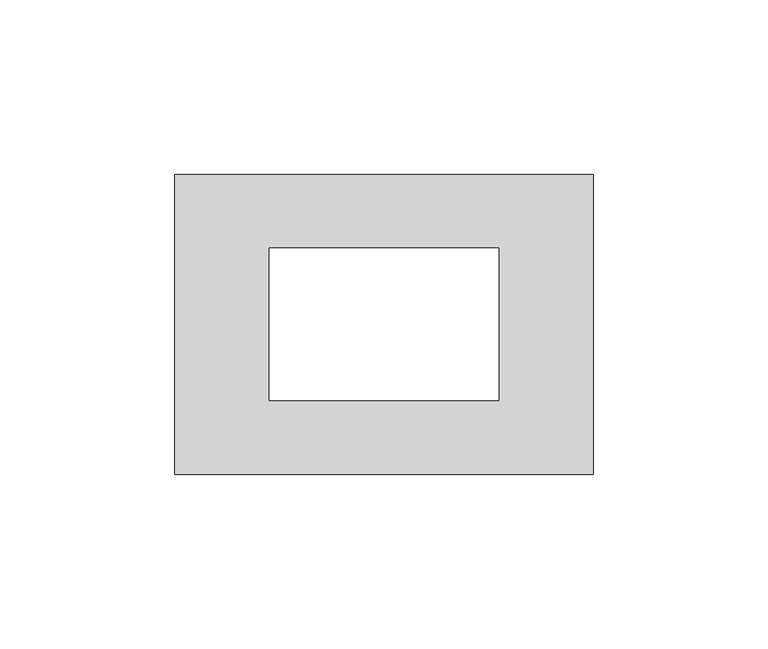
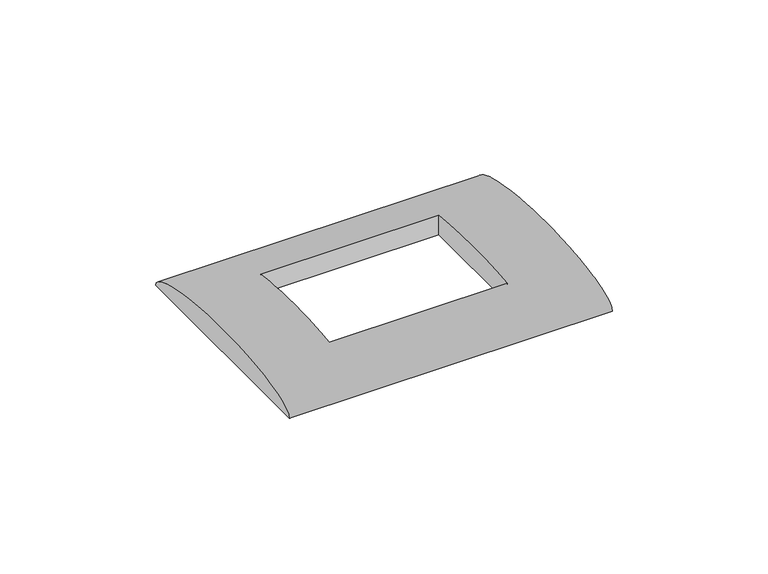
"""IFC4 building model written with IfcOpenShell, lengths in millimetres: proxy geometry, 00-Placca : Placca 3 moduli."""

import ifcopenshell
import ifcopenshell.guid

model = None  # the IFC model being written
_history = None  # IfcOwnerHistory: only IFC2X3 demands one
_inside = {}  # id of a spatial element -> (the spatial element, [elements in it])
_under = {}  # id of a project, library or spatial element -> (it, [spatial elements below it])
_declared = {}  # id of a project -> (the project, [libraries it declares])
_typed = {}  # id of a type object -> (the type object, [elements of that type])
_made_of = {}  # id of a material, layer set ... -> (it, [elements and type objects made of it])


def new_model(schema):
    """Start an empty IFC model of exactly this schema.

    Asked for "IFC4X3", IfcOpenShell would pick the latest addendum, in which some entities
    have other attributes; the version numbers below select the first issue.
    IFC2X3 requires an IfcOwnerHistory on every rooted entity: one is made here for all.
    """
    global model, _history
    if schema == "IFC4X3":
        model = ifcopenshell.file(schema_version=(4, 3, 0, 0))
    else:
        model = ifcopenshell.file(schema=schema)
    _inside.clear()
    _under.clear()
    _declared.clear()
    _typed.clear()
    _made_of.clear()
    _history = None
    if model.schema == "IFC2X3":
        org = make("IfcOrganization", Name="unknown")
        user = make(
            "IfcPersonAndOrganization",
            ThePerson=make("IfcPerson", FamilyName="unknown"),
            TheOrganization=org,
        )
        app = make(
            "IfcApplication",
            ApplicationDeveloper=org,
            Version="unknown",
            ApplicationFullName="unknown",
            ApplicationIdentifier="unknown",
        )
        _history = make(
            "IfcOwnerHistory",
            OwningUser=user,
            OwningApplication=app,
            ChangeAction="ADDED",
            CreationDate=0,
        )
    return model


def make(cls, **values):
    """One entity of the class cls with the attributes given. An attribute that is None is left unset."""
    return model.create_entity(
        cls, **{name: value for name, value in values.items() if value is not None}
    )


def rooted(cls, **values):
    """An entity with a GlobalId (a new one), such as an element, a storey or a relation."""
    return make(cls, GlobalId=ifcopenshell.guid.new(), OwnerHistory=_history, **values)


def si_unit(unit_type, name, prefix=None):
    """IfcSIUnit, for example si_unit("LENGTHUNIT", "METRE", prefix="MILLI")."""
    return make("IfcSIUnit", UnitType=unit_type, Prefix=prefix, Name=name)


def assignment(units):
    """IfcUnitAssignment: the units of a project."""
    return None if units is None else make("IfcUnitAssignment", Units=units)


def point(xyz):
    """IfcCartesianPoint."""
    return None if xyz is None else make("IfcCartesianPoint", Coordinates=xyz)


def direction(xyz):
    """IfcDirection."""
    return None if xyz is None else make("IfcDirection", DirectionRatios=xyz)


def frame(location, z_axis=None, x_axis=None):
    """IfcAxis2Placement3D, a coordinate frame: its origin and axes. An axis left out is left unset."""
    return make(
        "IfcAxis2Placement3D",
        Location=point(location),
        Axis=direction(z_axis),
        RefDirection=direction(x_axis),
    )


def origin():
    """The frame at (0, 0, 0) with its axes left unset."""
    return frame((0.0, 0.0, 0.0))


def place(relative_to, where):
    """IfcLocalPlacement: puts the frame where relative to a parent placement (None: the world)."""
    return make(
        "IfcLocalPlacement", PlacementRelTo=relative_to, RelativePlacement=where
    )


def context(
    kind, dimensions, precision=None, world=None, true_north=None, identifier=None
):
    """IfcGeometricRepresentationContext, for example the 3D "Model" context."""
    return make(
        "IfcGeometricRepresentationContext",
        ContextIdentifier=identifier,
        ContextType=kind,
        CoordinateSpaceDimension=dimensions,
        Precision=precision,
        WorldCoordinateSystem=world,
        TrueNorth=true_north,
    )


def project(units=None, contexts=None):
    """IfcProject with its units and contexts."""
    return rooted(
        "IfcProject",
        Name="project",
        RepresentationContexts=contexts,
        UnitsInContext=assignment(units),
    )


def spatial(cls, under=None, at=None, **own):
    """A site, building, storey or space (cls), placed at a placement, below another one or the project."""
    s = rooted(cls, ObjectPlacement=at, **own)
    if under is not None:
        _under.setdefault(under.id(), (under, []))[1].append(s)
    return s


def ellipse_curve(where, semi_axis1, semi_axis2):
    """IfcEllipse in the frame where."""
    return make(
        "IfcEllipse", Position=where, SemiAxis1=semi_axis1, SemiAxis2=semi_axis2
    )


def trimmed(basis, trim1, trim2, sense, master):
    """IfcTrimmedCurve: the piece of a basis curve between two trims."""
    return make(
        "IfcTrimmedCurve",
        BasisCurve=basis,
        Trim1=trim1,
        Trim2=trim2,
        SenseAgreement=sense,
        MasterRepresentation=master,
    )


def shape(context_of_items, identifier, shape_type, items):
    """IfcShapeRepresentation: the items that make up one representation, for example the "Body"."""
    return make(
        "IfcShapeRepresentation",
        ContextOfItems=context_of_items,
        RepresentationIdentifier=identifier,
        RepresentationType=shape_type,
        Items=items,
    )


def source(mapping_origin, context_of_items, identifier, shape_type, items):
    """IfcRepresentationMap: a shape defined once, which mapped items show again and again."""
    return make(
        "IfcRepresentationMap",
        MappingOrigin=mapping_origin,
        MappedRepresentation=shape(context_of_items, identifier, shape_type, items),
    )


def transform(
    local_origin,
    x_axis=None,
    y_axis=None,
    z_axis=None,
    scale=None,
    scale2=None,
    scale3=None,
    uniform=True,
):
    """IfcCartesianTransformationOperator3D, or its non-uniform kind. x_axis, y_axis, z_axis: its Axis1, 2, 3."""
    if uniform:
        return make(
            "IfcCartesianTransformationOperator3D",
            Axis1=direction(x_axis),
            Axis2=direction(y_axis),
            LocalOrigin=point(local_origin),
            Scale=scale,
            Axis3=direction(z_axis),
        )
    return make(
        "IfcCartesianTransformationOperator3DnonUniform",
        Axis1=direction(x_axis),
        Axis2=direction(y_axis),
        LocalOrigin=point(local_origin),
        Scale=scale,
        Axis3=direction(z_axis),
        Scale2=scale2,
        Scale3=scale3,
    )


def mapped(mapping_source, mapping_target):
    """IfcMappedItem: shows the shape of a source again, moved by a transform."""
    return make(
        "IfcMappedItem", MappingSource=mapping_source, MappingTarget=mapping_target
    )


def made_of(thing, what):
    """Note that an element or type object is made of a material, layer set ...; save() writes the relation."""
    if what is not None:
        _made_of.setdefault(what.id(), (what, []))[1].append(thing)
    return thing


def element(
    cls,
    number,
    at=None,
    inside=None,
    cuts=None,
    type_object=None,
    material=None,
    context=None,
    identifier="Body",
    shape_type=None,
    held_by="IfcProductDefinitionShape",
    body=None,
    shapes=None,
    **own,
):
    """One element of the class cls, such as IfcWall. Its Tag is "e" and its number.

    at: its placement. inside: the storey or other place that contains it. cuts: it is an
    opening in that element (IfcRelVoidsElement). A single representation is given by context,
    identifier, shape_type and body (its items); several are given by shapes. held_by: the class
    of the entity that holds the representations. save() writes the other relations.
    """
    e = rooted(cls, Tag="e%d" % number, ObjectPlacement=at, **own)
    if body is not None:
        shapes = [shape(context, identifier, shape_type, body)]
    if shapes is not None:
        e.Representation = make(held_by, Representations=shapes)
    if inside is not None:
        _inside.setdefault(inside.id(), (inside, []))[1].append(e)
    if cuts is not None:
        rooted(
            "IfcRelVoidsElement", RelatingBuildingElement=cuts, RelatedOpeningElement=e
        )
    if type_object is not None:
        _typed.setdefault(type_object.id(), (type_object, []))[1].append(e)
    return made_of(e, material)


def aggregate(whole, parts):
    """IfcRelAggregates: a whole, such as a stair, and the parts it consists of."""
    return rooted("IfcRelAggregates", RelatingObject=whole, RelatedObjects=parts)


def save(model, path):
    """Write the relations noted so far, then the file.

    IfcRelAggregates (storeys below a building ...), IfcRelContainedInSpatialStructure (elements
    in a storey), IfcRelDefinesByType, IfcRelAssociatesMaterial and IfcRelDeclares: one each for
    every whole, place, type object, material and project.
    """
    for whole, parts in _under.values():
        aggregate(whole, parts)
    for where, things in _inside.values():
        rooted(
            "IfcRelContainedInSpatialStructure",
            RelatedElements=things,
            RelatingStructure=where,
        )
    for kind, things in _typed.values():
        rooted("IfcRelDefinesByType", RelatedObjects=things, RelatingType=kind)
    for what, things in _made_of.values():
        rooted("IfcRelAssociatesMaterial", RelatedObjects=things, RelatingMaterial=what)
    for by, libraries in _declared.values():
        rooted("IfcRelDeclares", RelatingContext=by, RelatedDefinitions=libraries)
    model.write(path)


def plane_surface(at):
    """IfcPlane: the flat surface through the origin of the frame at, square to its z axis."""
    return make("IfcPlane", Position=at)


def extruded_surface(curve, direction_of_extrusion, depth):
    """IfcSurfaceOfLinearExtrusion: the curve pushed along a direction by depth."""
    return make(
        "IfcSurfaceOfLinearExtrusion",
        SweptCurve=make("IfcArbitraryOpenProfileDef", ProfileType="CURVE", Curve=curve),
        ExtrudedDirection=direction(direction_of_extrusion),
        Depth=depth,
    )


def advanced_brep(points, edges, surfaces, faces):
    """IfcAdvancedBrep: a solid bounded by faces that lie on surfaces and meet in shared edges.

    An edge is (start, end): straight between two places in points (the first is 0);
    or (start, end, curve); or (start, end, curve, False) where it runs against its curve.
    A face is (place in surfaces, loops), or (place, loops, False) where it looks against
    its surface's normal. A loop lists edges by number (the first is 1), with a minus sign
    where the edge is run from its end to its start. The first loop is the outer one.
    """
    corners = [point(p) for p in points]
    vertices = [make("IfcVertexPoint", VertexGeometry=c) for c in corners]
    made = []
    for start, end, *more in edges:
        made.append(
            make(
                "IfcEdgeCurve",
                EdgeStart=vertices[start],
                EdgeEnd=vertices[end],
                EdgeGeometry=more[0] if more else make("IfcPolyline", Points=[corners[start], corners[end]]),
                SameSense=more[1] if len(more) > 1 else True,
            )
        )
    hull = []
    for where, loops, *sense in faces:
        bounds = []
        for j, loop in enumerate(loops):
            ring = [make("IfcOrientedEdge", EdgeElement=made[abs(k) - 1], Orientation=k > 0) for k in loop]
            bounds.append(
                make(
                    "IfcFaceOuterBound" if j == 0 else "IfcFaceBound",
                    Bound=make("IfcEdgeLoop", EdgeList=ring),
                    Orientation=True,
                )
            )
        hull.append(make("IfcAdvancedFace", Bounds=bounds, FaceSurface=surfaces[where], SameSense=sense[0] if sense else True))
    return make("IfcAdvancedBrep", Outer=make("IfcClosedShell", CfsFaces=hull))


def electrical_fixtures_ccd0ece1(model_context):
    return source(origin(), model_context, "Body", "AdvancedBrep", [
        advanced_brep(
        [(60.0, -43.0, 2.0), (60.0, 43.0, 2.0), (-60.0, -43.0, 2.0), (-60.0, 43.0, 2.0), (33.0, -22.0, 2.0), (33.0, 22.0, 2.0), (-33.0, 22.0, 2.0), (-33.0, -22.0, 2.0), (33.0, -22.0, 9.7328641), (33.0, 22.0, 9.7328641), (-33.0, 22.0, 9.7328641), (-33.0, -22.0, 9.7328641)],
        [
            (0, 1),
            (1, 0, ellipse_curve(frame((60.0, 0.0, 2.0), z_axis=(1.0, 0.0, 0.0), x_axis=(0.0, 1.0, 0.0)), 43.0, 9.0)),
            (2, 3, ellipse_curve(frame((-60.0, 0.0, 2.0), z_axis=(-1.0, 0.0, 0.0), x_axis=(0.0, 1.0, 0.0)), 43.0, 9.0)),
            (3, 2),
            (0, 2),
            (3, 1),
            (4, 5),
            (5, 6),
            (6, 7),
            (7, 4),
            (4, 8),
            (8, 9, ellipse_curve(frame((33.0, 0.0, 2.0), z_axis=(-1.0, 0.0, 0.0), x_axis=(0.0, 1.0, 0.0)), 43.0, 9.0)),
            (9, 5),
            (9, 10),
            (10, 6),
            (10, 11, ellipse_curve(frame((-33.0, 0.0, 2.0), z_axis=(1.0, 0.0, 0.0), x_axis=(0.0, 1.0, 0.0)), 43.0, 9.0)),
            (11, 7),
            (11, 8),
        ],
        [
            plane_surface(frame((60.0, 43.0, 2.0), z_axis=(1.0, 0.0, 0.0), x_axis=(0.0, 1.0, 0.0))),
            plane_surface(frame((-60.0, 43.0, 2.0), z_axis=(-1.0, 0.0, 0.0), x_axis=(0.0, -1.0, 0.0))),
            plane_surface(frame((60.0, -43.0, 2.0), z_axis=(0.0, 0.0, -1.0), x_axis=(-1.0, 0.0, 0.0))),
            plane_surface(frame((33.0, -22.0, 13.0), z_axis=(-1.0, 0.0, 0.0), x_axis=(0.0, 0.0, -1.0))),
            plane_surface(frame((33.0, 22.0, 13.0), z_axis=(0.0, -1.0, 0.0), x_axis=(0.0, 0.0, -1.0))),
            plane_surface(frame((-33.0, 22.0, 13.0), z_axis=(1.0, 0.0, 0.0), x_axis=(0.0, 0.0, -1.0))),
            plane_surface(frame((-33.0, -22.0, 13.0), z_axis=(0.0, 1.0, 0.0), x_axis=(0.0, 0.0, -1.0))),
            extruded_surface(trimmed(ellipse_curve(frame((-180.0, 0.0, 2.0), z_axis=(1.0, 0.0, 0.0), x_axis=(0.0, 1.0, 0.0)), 43.0, 9.0), [point((-180.0, 43.0, 2.0))], [point((-180.0, -43.0, 2.0))], True, "CARTESIAN"), (120.0, 0.0, 0.0), 120.0),
        ],
        [
            (0, [[1, 2]]),
            (1, [[3, 4]]),
            (2, [[-1, 5, -4, 6], [7, 8, 9, 10]]),
            (3, [[11, 12, 13, -7]]),
            (4, [[-13, 14, 15, -8]]),
            (5, [[-15, 16, 17, -9]]),
            (6, [[-11, -10, -17, 18]]),
            (7, [[-2, -6, -3, -5], [-12, -18, -16, -14]]),
        ],
    ),
    ])


if __name__ == "__main__":
    model = new_model("IFC4")
    model_context = context("Model", 3, world=origin())
    ifc_project = project(units=[si_unit("LENGTHUNIT", "METRE", prefix="MILLI")], contexts=[model_context])
    site = spatial("IfcSite", under=ifc_project)
    building = spatial("IfcBuilding", under=site)
    placement = place(None, origin())
    electrical_fixtures_shape = electrical_fixtures_ccd0ece1(model_context)
    element("IfcBuildingElementProxy", 1, Name="00-Placca : Placca 3 moduli", ObjectType="00-Placca : Placca 3 moduli", at=placement, inside=building, context=model_context, shape_type="MappedRepresentation", body=[
        mapped(electrical_fixtures_shape, transform((0.0, 0.0, 0.0), x_axis=(1.0, 0.0, 0.0), y_axis=(0.0, 1.0, 0.0), z_axis=(0.0, 0.0, 1.0))),
    ])
    save(model, "model.ifc")
